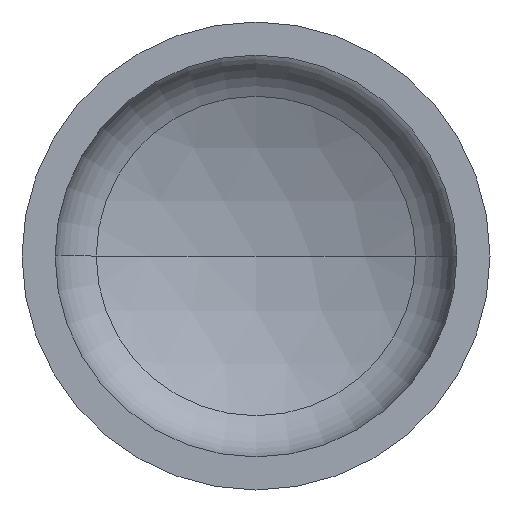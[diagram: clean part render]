
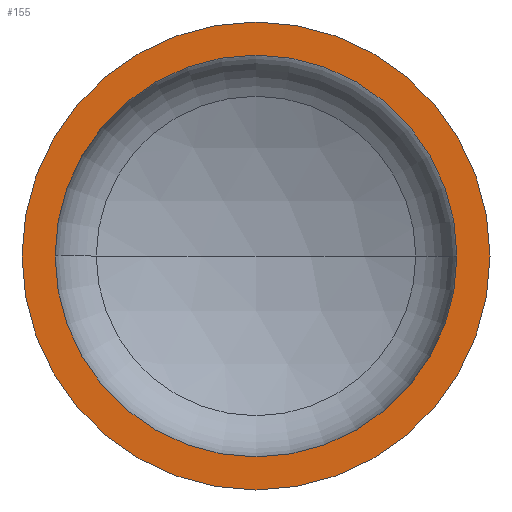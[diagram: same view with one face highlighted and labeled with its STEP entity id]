
A CAD part, front view. The second image highlights one B-rep face of the part: STEP entity #155.
In plain terms, the highlighted planar face has unit normal (0, -1, 0).
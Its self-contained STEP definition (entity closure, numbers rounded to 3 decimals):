
#5 = EDGE_LOOP ( 'NONE', ( #71, #11 ) ) ;
#6 = AXIS2_PLACEMENT_3D ( 'NONE', #392, #256, #301 ) ;
#11 = ORIENTED_EDGE ( 'NONE', *, *, #70, .T. ) ;
#16 = AXIS2_PLACEMENT_3D ( 'NONE', #202, #340, #207 ) ;
#35 = AXIS2_PLACEMENT_3D ( 'NONE', #379, #248, #247 ) ;
#58 = AXIS2_PLACEMENT_3D ( 'NONE', #203, #204, #328 ) ;
#59 = AXIS2_PLACEMENT_3D ( 'NONE', #309, #308, #306 ) ;
#66 = EDGE_LOOP ( 'NONE', ( #138, #122 ) ) ;
#70 = EDGE_CURVE ( 'NONE', #130, #131, #353, .T. ) ;
#71 = ORIENTED_EDGE ( 'NONE', *, *, #378, .T. ) ;
#72 = EDGE_CURVE ( 'NONE', #97, #94, #168, .T. ) ;
#94 = VERTEX_POINT ( 'NONE', #324 ) ;
#97 = VERTEX_POINT ( 'NONE', #292 ) ;
#122 = ORIENTED_EDGE ( 'NONE', *, *, #349, .F. ) ;
#130 = VERTEX_POINT ( 'NONE', #221 ) ;
#131 = VERTEX_POINT ( 'NONE', #291 ) ;
#138 = ORIENTED_EDGE ( 'NONE', *, *, #72, .F. ) ;
#140 = FACE_OUTER_BOUND ( 'NONE', #5, .T. ) ;
#151 = FACE_BOUND ( 'NONE', #66, .T. ) ;
#155 = ADVANCED_FACE ( 'NONE', ( #151, #140 ), #206, .F. ) ;
#168 = CIRCLE ( 'NONE', #58, 644. ) ;
#202 = CARTESIAN_POINT ( 'NONE',  ( 0., 0., 0. ) ) ;
#203 = CARTESIAN_POINT ( 'NONE',  ( 0., 0., 0. ) ) ;
#204 = DIRECTION ( 'NONE',  ( 0., -1., 0. ) ) ;
#206 = PLANE ( 'NONE',  #35 ) ;
#207 = DIRECTION ( 'NONE',  ( 1., 0., 0. ) ) ;
#221 = CARTESIAN_POINT ( 'NONE',  ( -750., 0., 0. ) ) ;
#244 = CIRCLE ( 'NONE', #16, 644. ) ;
#247 = DIRECTION ( 'NONE',  ( -1., 0., 0. ) ) ;
#248 = DIRECTION ( 'NONE',  ( 0., 1., 0. ) ) ;
#256 = DIRECTION ( 'NONE',  ( 0., -1., 0. ) ) ;
#291 = CARTESIAN_POINT ( 'NONE',  ( 750., 0., 0. ) ) ;
#292 = CARTESIAN_POINT ( 'NONE',  ( 644., 0., 0. ) ) ;
#301 = DIRECTION ( 'NONE',  ( 1., 0., 0. ) ) ;
#306 = DIRECTION ( 'NONE',  ( 1., 0., 0. ) ) ;
#308 = DIRECTION ( 'NONE',  ( 0., -1., 0. ) ) ;
#309 = CARTESIAN_POINT ( 'NONE',  ( 0., 0., 0. ) ) ;
#324 = CARTESIAN_POINT ( 'NONE',  ( -644., 0., 0. ) ) ;
#328 = DIRECTION ( 'NONE',  ( 1., 0., 0. ) ) ;
#340 = DIRECTION ( 'NONE',  ( 0., -1., 0. ) ) ;
#349 = EDGE_CURVE ( 'NONE', #94, #97, #244, .T. ) ;
#353 = CIRCLE ( 'NONE', #59, 750. ) ;
#378 = EDGE_CURVE ( 'NONE', #131, #130, #404, .T. ) ;
#379 = CARTESIAN_POINT ( 'NONE',  ( -750., 0., 0. ) ) ;
#392 = CARTESIAN_POINT ( 'NONE',  ( 0., 0., 0. ) ) ;
#404 = CIRCLE ( 'NONE', #6, 750. ) ;
